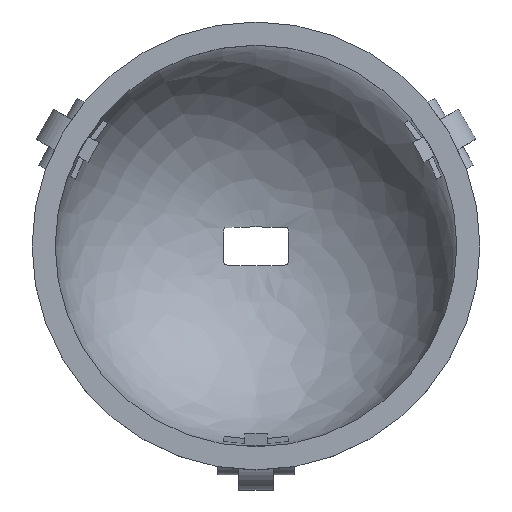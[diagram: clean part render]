
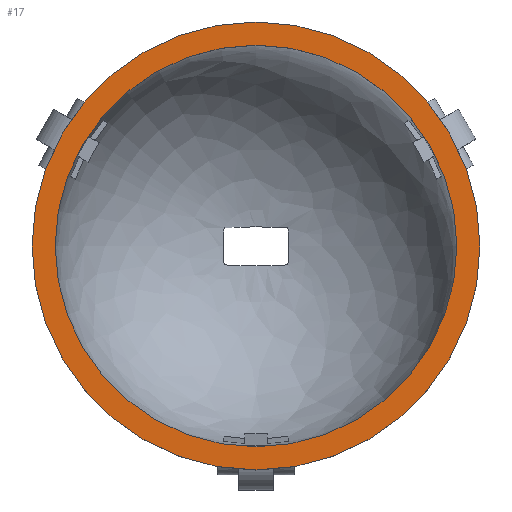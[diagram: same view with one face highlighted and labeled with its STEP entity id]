
A CAD part, top view. The second image highlights one B-rep face of the part: STEP entity #17.
In plain terms, the highlighted planar face has unit normal (0, 0, 1).
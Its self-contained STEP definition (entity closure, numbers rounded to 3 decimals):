
#17 = ADVANCED_FACE('',(#18,#54),#31,.T.);
#18 = FACE_BOUND('',#19,.F.);
#19 = EDGE_LOOP('',(#20));
#20 = ORIENTED_EDGE('',*,*,#21,.T.);
#21 = EDGE_CURVE('',#22,#22,#24,.T.);
#22 = VERTEX_POINT('',#23);
#23 = CARTESIAN_POINT('',(26.,0.,0.));
#24 = SURFACE_CURVE('',#25,(#30,#42),.PCURVE_S1.);
#25 = CIRCLE('',#26,26.);
#26 = AXIS2_PLACEMENT_3D('',#27,#28,#29);
#27 = CARTESIAN_POINT('',(0.,0.,0.));
#28 = DIRECTION('',(0.,0.,1.));
#29 = DIRECTION('',(1.,0.,-0.));
#30 = PCURVE('',#31,#36);
#31 = PLANE('',#32);
#32 = AXIS2_PLACEMENT_3D('',#33,#34,#35);
#33 = CARTESIAN_POINT('',(0.,0.,0.));
#34 = DIRECTION('',(0.,0.,1.));
#35 = DIRECTION('',(1.,0.,-0.));
#36 = DEFINITIONAL_REPRESENTATION('',(#37),#41);
#37 = CIRCLE('',#38,26.);
#38 = AXIS2_PLACEMENT_2D('',#39,#40);
#39 = CARTESIAN_POINT('',(0.,0.));
#40 = DIRECTION('',(1.,-0.));
#41 = ( GEOMETRIC_REPRESENTATION_CONTEXT(2) 
PARAMETRIC_REPRESENTATION_CONTEXT() REPRESENTATION_CONTEXT('2D SPACE',''
  ) );
#42 = PCURVE('',#43,#48);
#43 = CYLINDRICAL_SURFACE('',#44,26.);
#44 = AXIS2_PLACEMENT_3D('',#45,#46,#47);
#45 = CARTESIAN_POINT('',(0.,0.,-4.));
#46 = DIRECTION('',(0.,0.,1.));
#47 = DIRECTION('',(1.,0.,-0.));
#48 = DEFINITIONAL_REPRESENTATION('',(#49),#53);
#49 = LINE('',#50,#51);
#50 = CARTESIAN_POINT('',(0.,4.));
#51 = VECTOR('',#52,1.);
#52 = DIRECTION('',(1.,0.));
#53 = ( GEOMETRIC_REPRESENTATION_CONTEXT(2) 
PARAMETRIC_REPRESENTATION_CONTEXT() REPRESENTATION_CONTEXT('2D SPACE',''
  ) );
#54 = FACE_BOUND('',#55,.F.);
#55 = EDGE_LOOP('',(#56));
#56 = ORIENTED_EDGE('',*,*,#57,.F.);
#57 = EDGE_CURVE('',#58,#58,#60,.T.);
#58 = VERTEX_POINT('',#59);
#59 = CARTESIAN_POINT('',(29.,0.,0.));
#60 = SURFACE_CURVE('',#61,(#66,#73),.PCURVE_S1.);
#61 = CIRCLE('',#62,29.);
#62 = AXIS2_PLACEMENT_3D('',#63,#64,#65);
#63 = CARTESIAN_POINT('',(0.,0.,0.));
#64 = DIRECTION('',(0.,0.,1.));
#65 = DIRECTION('',(1.,0.,-0.));
#66 = PCURVE('',#31,#67);
#67 = DEFINITIONAL_REPRESENTATION('',(#68),#72);
#68 = CIRCLE('',#69,29.);
#69 = AXIS2_PLACEMENT_2D('',#70,#71);
#70 = CARTESIAN_POINT('',(0.,0.));
#71 = DIRECTION('',(1.,-0.));
#72 = ( GEOMETRIC_REPRESENTATION_CONTEXT(2) 
PARAMETRIC_REPRESENTATION_CONTEXT() REPRESENTATION_CONTEXT('2D SPACE',''
  ) );
#73 = PCURVE('',#74,#79);
#74 = CYLINDRICAL_SURFACE('',#75,29.);
#75 = AXIS2_PLACEMENT_3D('',#76,#77,#78);
#76 = CARTESIAN_POINT('',(0.,0.,0.));
#77 = DIRECTION('',(-0.,-0.,-1.));
#78 = DIRECTION('',(1.,0.,0.));
#79 = DEFINITIONAL_REPRESENTATION('',(#80),#84);
#80 = LINE('',#81,#82);
#81 = CARTESIAN_POINT('',(-0.,0.));
#82 = VECTOR('',#83,1.);
#83 = DIRECTION('',(-1.,0.));
#84 = ( GEOMETRIC_REPRESENTATION_CONTEXT(2) 
PARAMETRIC_REPRESENTATION_CONTEXT() REPRESENTATION_CONTEXT('2D SPACE',''
  ) );
